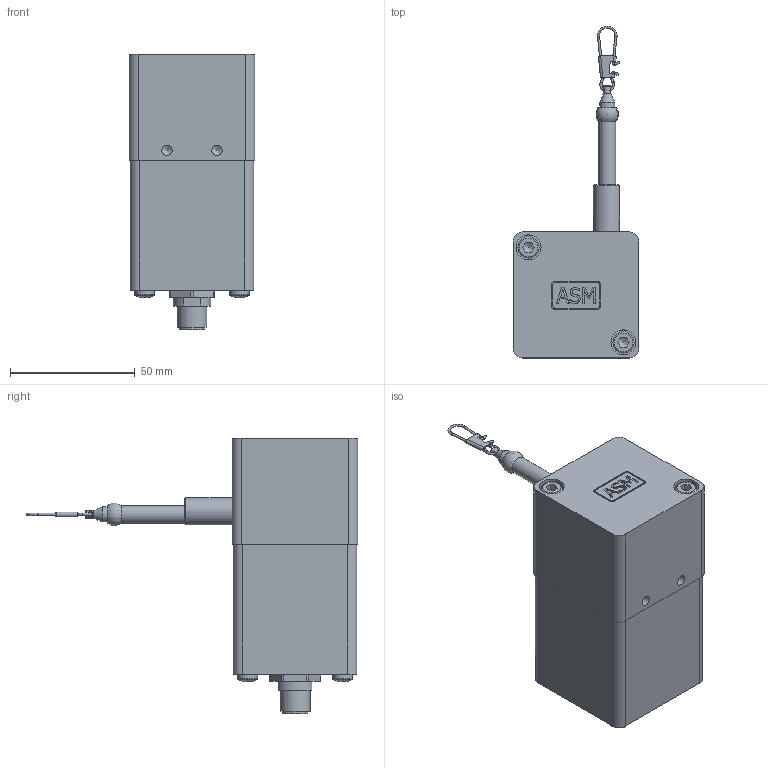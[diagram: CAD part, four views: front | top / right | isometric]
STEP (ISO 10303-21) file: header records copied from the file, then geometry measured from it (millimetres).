
FILE_DESCRIPTION(/* description */ (''),/* implementation_level */ '2;1');
FILE_NAME(/* name */ 'C:\Users\Kamp\Desktop\WS10ZG 375!750 SB0.stp',/* time_stamp */ '2021-06-08T16:44:13+02:00',/* author */ ('kamp'),/* organization */ (''),/* preprocessor_version */ 'ST-DEVELOPER v15.6',/* originating_system */ 'Autodesk Inventor 2015',/* authorisation */ '');
FILE_SCHEMA (('CONFIG_CONTROL_DESIGN'));
Length unit declared in the file: centimetre
Products named in the file (1): WS10ZG 375!750 SB0
Bounding box: 50.35 x 132.8 x 110.4 mm (x, y, z)
Volume: 238609 mm3; surface area: 27507 mm2
Topology: 1 solids, 1 shells, 282 faces, 757 edges, 494 vertices
Faces by surface type: plane 158, cylinder 67, bspline 32, cone 10, torus 9, sphere 6
Full cylindrical faces by diameter (mm): 0.8 x1, 0.9 x7, 1 x5, 1.5 x1, 3 x1, 4.134 x4, 6 x1, 7 x1, 8 x2, 8.3 x1, 8.5 x2, 10 x2, 10.4 x1, 12 x1
Entity records: 10679 total; most frequent: CARTESIAN_POINT 3927, ORIENTED_EDGE 1340, DIRECTION 1219, EDGE_CURVE 670, VERTEX_POINT 462, AXIS2_PLACEMENT_3D 419, LINE 381, VECTOR 381
